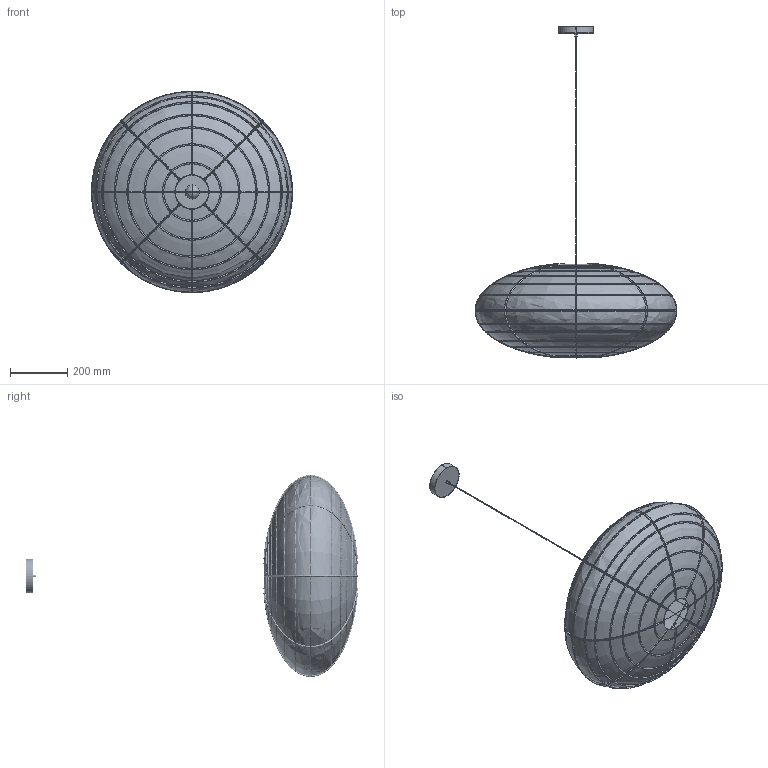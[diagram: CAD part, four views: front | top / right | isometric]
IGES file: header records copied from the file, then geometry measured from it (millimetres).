
Start section: SolidWorks IGES file using analytic representation for surfaces
Global section: file name: F:\燠隴矨\3D\2025-10\Washi Paper EN Pendant Lamp-D70cm.IGS,15; native system: HSolidWorks 2022; preprocessor: SolidWorks 2022; author: MyPC; date: 251010.092907; units: millimetre
Bounding box: 705.49 x 1160.35 x 705.49 mm (x, y, z)
Surface area: 2503795.4 mm2 (no closed solid volume)
Topology: 0 solids, 0 shells, 240 faces, 2150 edges, 2147 vertices
Faces by surface type: bspline 166, revolution 74
